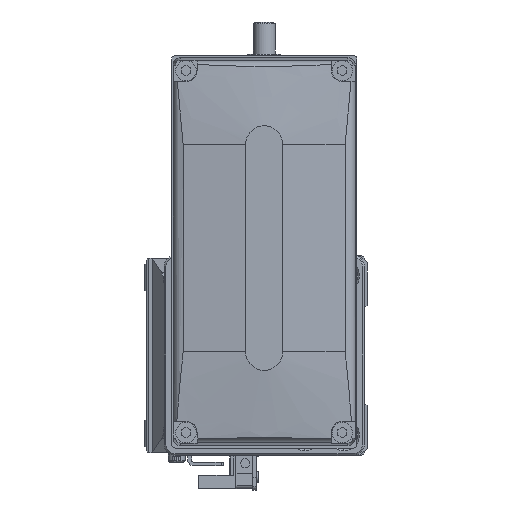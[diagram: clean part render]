
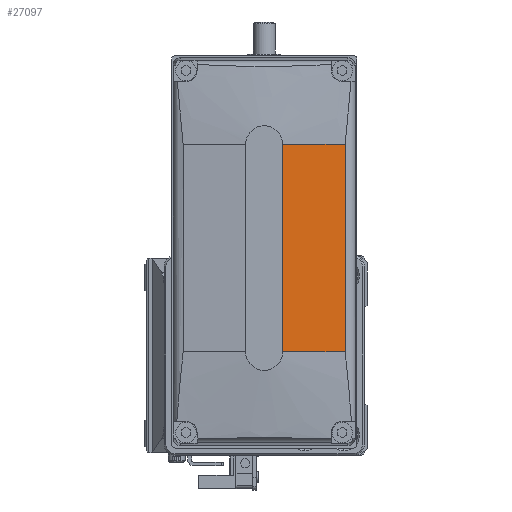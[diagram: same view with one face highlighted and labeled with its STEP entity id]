
A CAD part, left-side view. The second image highlights one B-rep face of the part: STEP entity #27097.
In plain terms, the highlighted planar face has unit normal (-0.996, -0.087, 0) as drawn and (-0.996, 0, -0.087) by its records, which use the part's own axes.
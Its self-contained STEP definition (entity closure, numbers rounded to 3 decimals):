
#209 = ORIENTED_EDGE ( 'NONE', *, *, #33224, .F. ) ;
#661 = LINE ( 'NONE', #10712, #10791 ) ;
#1144 = LINE ( 'NONE', #22471, #14026 ) ;
#2080 = LINE ( 'NONE', #25904, #28333 ) ;
#3615 = VERTEX_POINT ( 'NONE', #22618 ) ;
#4833 = DIRECTION ( 'NONE',  ( 0., 1., 0. ) ) ;
#4903 = ORIENTED_EDGE ( 'NONE', *, *, #16798, .T. ) ;
#5646 = DIRECTION ( 'NONE',  ( -0.087, 0., 0.996 ) ) ;
#8435 = CARTESIAN_POINT ( 'NONE',  ( -48.525, -28., -21.861 ) ) ;
#10712 = CARTESIAN_POINT ( 'NONE',  ( -50., 128., -5. ) ) ;
#10791 = VECTOR ( 'NONE', #16467, 1000. ) ;
#11820 = CARTESIAN_POINT ( 'NONE',  ( -50., 128., -5. ) ) ;
#12812 = VECTOR ( 'NONE', #26521, 1000. ) ;
#14026 = VECTOR ( 'NONE', #28669, 1000. ) ;
#14964 = ORIENTED_EDGE ( 'NONE', *, *, #32964, .F. ) ;
#16467 = DIRECTION ( 'NONE',  ( 0., 1., 0. ) ) ;
#16798 = EDGE_CURVE ( 'NONE', #3615, #32780, #661, .T. ) ;
#20448 = CARTESIAN_POINT ( 'NONE',  ( 43606.406, 28., -499000. ) ) ;
#20589 = LINE ( 'NONE', #20448, #12812 ) ;
#20926 = VERTEX_POINT ( 'NONE', #21036 ) ;
#21036 = CARTESIAN_POINT ( 'NONE',  ( -48.525, 28., -21.861 ) ) ;
#22471 = CARTESIAN_POINT ( 'NONE',  ( 43606.406, -28., -499000. ) ) ;
#22618 = CARTESIAN_POINT ( 'NONE',  ( -50., -28., -5. ) ) ;
#25904 = CARTESIAN_POINT ( 'NONE',  ( -48.525, 128., -21.861 ) ) ;
#26217 = ORIENTED_EDGE ( 'NONE', *, *, #31149, .F. ) ;
#26521 = DIRECTION ( 'NONE',  ( -0.087, 0., 0.996 ) ) ;
#27097 = ADVANCED_FACE ( 'NONE', ( #36274 ), #32171, .T. ) ;
#28333 = VECTOR ( 'NONE', #4833, 1000. ) ;
#28669 = DIRECTION ( 'NONE',  ( 0.087, 0., -0.996 ) ) ;
#28937 = DIRECTION ( 'NONE',  ( -0.996, 0., -0.087 ) ) ;
#31149 = EDGE_CURVE ( 'NONE', #20926, #32780, #20589, .T. ) ;
#32171 = PLANE ( 'NONE',  #36576 ) ;
#32780 = VERTEX_POINT ( 'NONE', #33226 ) ;
#32964 = EDGE_CURVE ( 'NONE', #3615, #33298, #1144, .T. ) ;
#33224 = EDGE_CURVE ( 'NONE', #33298, #20926, #2080, .T. ) ;
#33226 = CARTESIAN_POINT ( 'NONE',  ( -50., 28., -5. ) ) ;
#33298 = VERTEX_POINT ( 'NONE', #8435 ) ;
#36274 = FACE_OUTER_BOUND ( 'NONE', #37403, .T. ) ;
#36576 = AXIS2_PLACEMENT_3D ( 'NONE', #11820, #28937, #5646 ) ;
#37403 = EDGE_LOOP ( 'NONE', ( #26217, #209, #14964, #4903 ) ) ;
